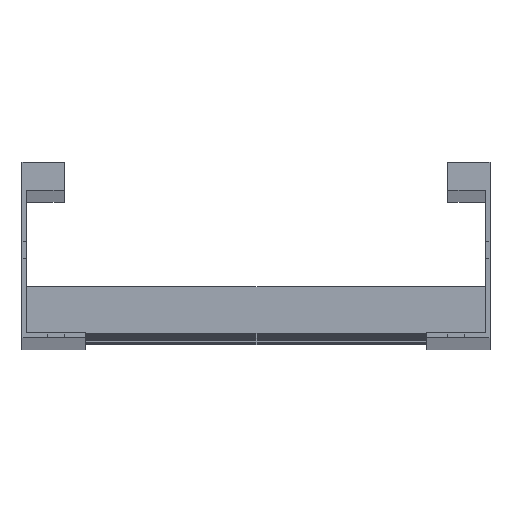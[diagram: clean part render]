
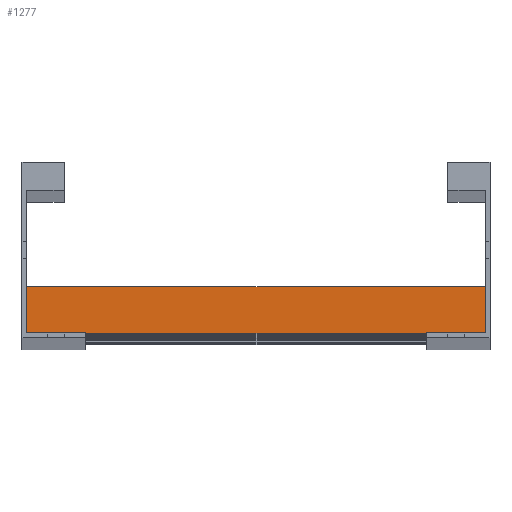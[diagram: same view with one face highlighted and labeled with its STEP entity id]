
A CAD part, top view. The second image highlights one B-rep face of the part: STEP entity #1277.
In plain terms, the highlighted planar face has unit normal (0, 0, 1).
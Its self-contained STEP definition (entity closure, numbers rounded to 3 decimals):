
#9 = EDGE_CURVE ( 'NONE', #336, #451, #302, .T. ) ;
#20 = VECTOR ( 'NONE', #1013, 1000. ) ;
#178 = CARTESIAN_POINT ( 'NONE',  ( 98., 20., 20.25 ) ) ;
#296 = CARTESIAN_POINT ( 'NONE',  ( -98., 20., 20.25 ) ) ;
#302 = LINE ( 'NONE', #1629, #710 ) ;
#336 = VERTEX_POINT ( 'NONE', #1620 ) ;
#341 = FACE_OUTER_BOUND ( 'NONE', #383, .T. ) ;
#378 = VECTOR ( 'NONE', #625, 1000. ) ;
#383 = EDGE_LOOP ( 'NONE', ( #1439, #1484, #986, #814 ) ) ;
#424 = LINE ( 'NONE', #958, #691 ) ;
#444 = DIRECTION ( 'NONE',  ( 0., 0., -1. ) ) ;
#451 = VERTEX_POINT ( 'NONE', #1396 ) ;
#501 = EDGE_CURVE ( 'NONE', #1334, #336, #1240, .T. ) ;
#591 = EDGE_CURVE ( 'NONE', #1334, #1507, #752, .T. ) ;
#625 = DIRECTION ( 'NONE',  ( -1., 0., 0. ) ) ;
#691 = VECTOR ( 'NONE', #1492, 1000. ) ;
#704 = CARTESIAN_POINT ( 'NONE',  ( 98., 20., 20.25 ) ) ;
#710 = VECTOR ( 'NONE', #1482, 1000. ) ;
#752 = LINE ( 'NONE', #1290, #378 ) ;
#814 = ORIENTED_EDGE ( 'NONE', *, *, #591, .T. ) ;
#868 = PLANE ( 'NONE',  #1501 ) ;
#958 = CARTESIAN_POINT ( 'NONE',  ( -98., 20., 20.25 ) ) ;
#986 = ORIENTED_EDGE ( 'NONE', *, *, #501, .F. ) ;
#1013 = DIRECTION ( 'NONE',  ( 0., -1., 0. ) ) ;
#1123 = DIRECTION ( 'NONE',  ( 0., 1., 0. ) ) ;
#1224 = EDGE_CURVE ( 'NONE', #1507, #451, #424, .T. ) ;
#1240 = LINE ( 'NONE', #1652, #20 ) ;
#1277 = ADVANCED_FACE ( 'NONE', ( #341 ), #868, .F. ) ;
#1290 = CARTESIAN_POINT ( 'NONE',  ( 98., 20., 20.25 ) ) ;
#1334 = VERTEX_POINT ( 'NONE', #178 ) ;
#1396 = CARTESIAN_POINT ( 'NONE',  ( -98., 0., 20.25 ) ) ;
#1439 = ORIENTED_EDGE ( 'NONE', *, *, #1224, .T. ) ;
#1482 = DIRECTION ( 'NONE',  ( -1., 0., 0. ) ) ;
#1484 = ORIENTED_EDGE ( 'NONE', *, *, #9, .F. ) ;
#1492 = DIRECTION ( 'NONE',  ( 0., -1., 0. ) ) ;
#1501 = AXIS2_PLACEMENT_3D ( 'NONE', #704, #444, #1123 ) ;
#1507 = VERTEX_POINT ( 'NONE', #296 ) ;
#1620 = CARTESIAN_POINT ( 'NONE',  ( 98., 0., 20.25 ) ) ;
#1629 = CARTESIAN_POINT ( 'NONE',  ( 98., 0., 20.25 ) ) ;
#1652 = CARTESIAN_POINT ( 'NONE',  ( 98., 20., 20.25 ) ) ;
